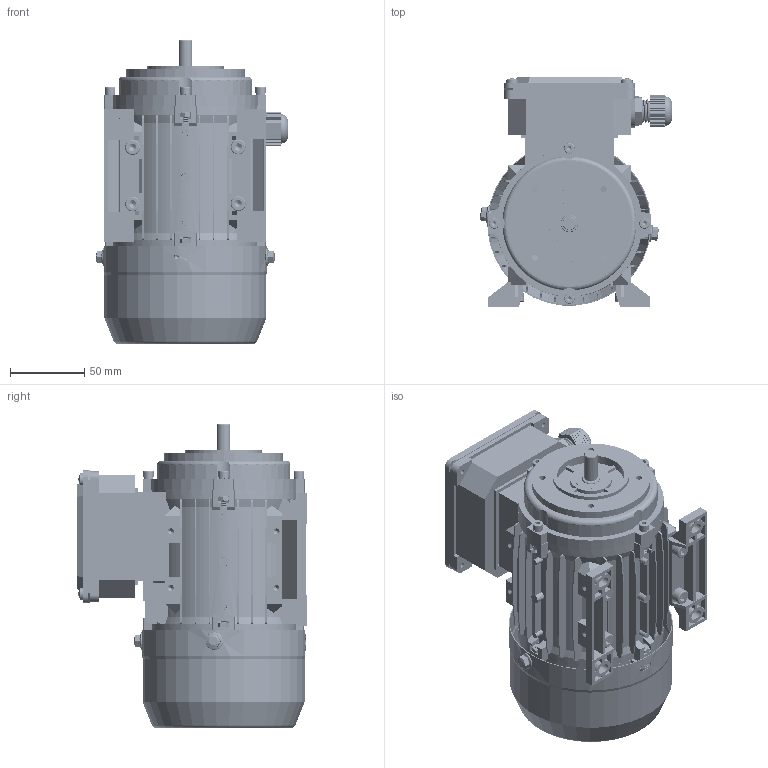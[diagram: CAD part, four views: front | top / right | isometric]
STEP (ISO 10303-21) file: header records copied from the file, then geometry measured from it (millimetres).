
FILE_DESCRIPTION (( 'STEP AP203' ), '1' );
FILE_NAME ('MS56 B34 3Dͼ.STEP', '2024-08-02T05:53:09', ( 'User' ), ( 'China' ), 'SwSTEP 2.0', 'SolidWorks 2018', '' );
FILE_SCHEMA (( 'CONFIG_CONTROL_DESIGN' ));
Length unit declared in the file: millimetre
Products named in the file (23): MS56菁褐; hex nuts, style 1-grades ab gb_GB_FASTENER_NUT_SNAB1 M4-S; MS56儂褲; hexagon socket head cap screws gb_GB_FASTENER_SCREWS_HSHCS M6X16-S; spring lock washers--normal type gb_GB_FASTENER_WASHER_SW 4; MS56B3綴裔; 蚐猾12X22X3; hex flange bolts-heavy grade b gb_GB_FASTENER_BOLT_HFBB M5X10-S; deep groove ball bearings gb_Rolling bearings 6201 GB 276-94; MS56B14ヶ裔; MS56諉盄碟菁釱; MS56蛌粣; hexagon socket head cap screws gb_GB_FASTENER_SCREWS_HSHCS M4X20-S; 蹟杶郋M16X1.5; AO56瑞珔; 黑芛M16X1.5; 蹟杶簸M16X1.5; circlips for shaft--type a large gb_GB_CONNECTING_PIECE_RING_RRA 11; MS56 B34  3Dͼ; cross recessed pan head screws gb_GB_CROSS_SCREWS_TYPE1 M4X6-6  H type-S; MS56瑞欶; MS56諉盄碟裔; hexagon socket head cap screws gb_GB_FASTENER_SCREWS_HSHCS M4X16-S
Assembly tree (51 placements, depth 2):
  MS56 B34  3Dͼ
    MS56儂褲
    MS56B3綴裔
    deep groove ball bearings gb_Rolling bearings 6201 GB 276-94  x2
    MS56蛌粣
    AO56瑞珔
    circlips for shaft--type a large gb_GB_CONNECTING_PIECE_RING_RRA 11
    MS56瑞欶
    hexagon socket head cap screws gb_GB_FASTENER_SCREWS_HSHCS M4X16-S  x4
    hex nuts, style 1-grades ab gb_GB_FASTENER_NUT_SNAB1 M4-S  x7
    spring lock washers--normal type gb_GB_FASTENER_WASHER_SW 4  x4
    hex flange bolts-heavy grade b gb_GB_FASTENER_BOLT_HFBB M5X10-S  x3
    MS56諉盄碟菁釱
    蹟杶郋M16X1.5
    蹟杶簸M16X1.5
    cross recessed pan head screws gb_GB_CROSS_SCREWS_TYPE1 M4X6-6  H type-S  x8
    MS56諉盄碟裔
    MS56菁褐  x2
    hexagon socket head cap screws gb_GB_FASTENER_SCREWS_HSHCS M6X16-S  x4
    蚐猾12X22X3
    MS56B14ヶ裔
    hexagon socket head cap screws gb_GB_FASTENER_SCREWS_HSHCS M4X20-S  x4
    黑芛M16X1.5
Bounding box: 129.02 x 154.5 x 204.54 mm (x, y, z)
Volume: 377155.6 mm3; surface area: 345378.4 mm2
Topology: 51 solids, 51 shells, 7463 faces, 17700 edges, 10338 vertices
Faces by surface type: cone 2762, plane 2368, cylinder 1927, torus 174, bspline 168, sphere 64
Entity records: 134777 total; most frequent: CARTESIAN_POINT 37780, ORIENTED_EDGE 19868, DIRECTION 19121, EDGE_CURVE 9934, AXIS2_PLACEMENT_3D 6534, VERTEX_POINT 6183, LINE 6053, VECTOR 6053
